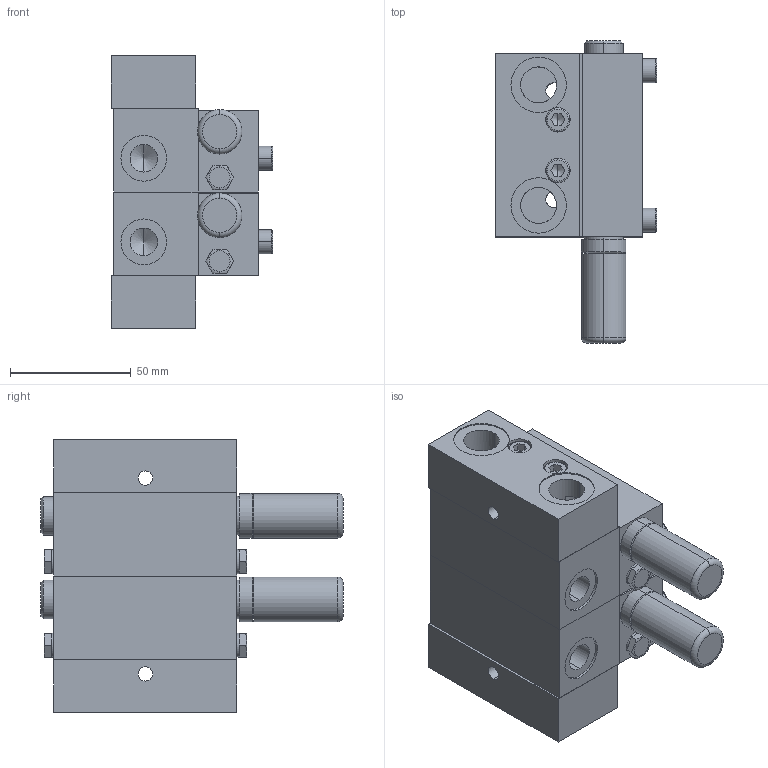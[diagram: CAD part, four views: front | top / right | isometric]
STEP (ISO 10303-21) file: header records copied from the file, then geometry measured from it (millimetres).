
FILE_DESCRIPTION((''),'2;1');
FILE_NAME('5010156_3D.stp','2017-05-31T13:24:52',(''),(''),'Mechanical Desktop 2008','Mechanical Desktop 2008',', , ');
FILE_SCHEMA(('AUTOMOTIVE_DESIGN { 1 2 10303 214 1 1 1 1 }'));
Length unit declared in the file: millimetre
Products named in the file (10): 5010156_3D; PART1; PART3; CYLINDER HEAD CAP SCREW - UNI 5931 - M 6 X  30; ~PART1; PART2; ~~PART1; CYLINDER HEAD CAP SCREW - UNI 5931 - M 6 X  25; ~~~PART1; PART4
Assembly tree (20 placements, depth 2):
  5010156_3D
    PART1  x2
    PART3  x4
    CYLINDER HEAD CAP SCREW - UNI 5931 - M 6 X  30  x4
    ~PART1  x2
    PART2  x2
    ~~PART1
    CYLINDER HEAD CAP SCREW - UNI 5931 - M 6 X  25  x2
    ~~~PART1
    PART4  x2
Bounding box: 67 x 125.3 x 113.2 mm (x, y, z)
Volume: 399509.1 mm3; surface area: 110553.5 mm2
Topology: 20 solids, 20 shells, 710 faces, 1722 edges, 1092 vertices
Faces by surface type: plane 314, cylinder 212, cone 104, bspline 68, torus 12
Entity records: 10319 total; most frequent: CARTESIAN_POINT 2335, DIRECTION 1628, ORIENTED_EDGE 1582, EDGE_CURVE 791, AXIS2_PLACEMENT_3D 600, VERTEX_POINT 515, VECTOR 428, LINE 428
